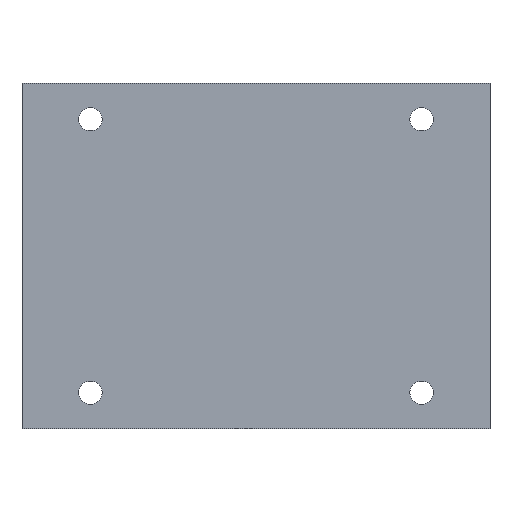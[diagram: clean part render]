
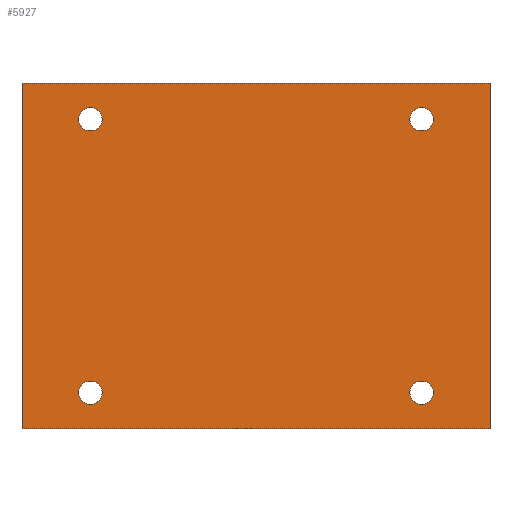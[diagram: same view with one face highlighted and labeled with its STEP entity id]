
A CAD part, front view. The second image highlights one B-rep face of the part: STEP entity #5927.
In plain terms, the highlighted planar face has unit normal (0, -1, 0).
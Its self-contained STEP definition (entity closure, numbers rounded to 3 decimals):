
#370=FACE_BOUND('',#941,.T.);
#371=FACE_BOUND('',#942,.T.);
#372=FACE_BOUND('',#943,.T.);
#373=FACE_BOUND('',#944,.T.);
#436=PLANE('',#6369);
#582=FACE_OUTER_BOUND('',#940,.T.);
#940=EDGE_LOOP('',(#4093,#4094,#4095,#4096));
#941=EDGE_LOOP('',(#4097));
#942=EDGE_LOOP('',(#4098));
#943=EDGE_LOOP('',(#4099));
#944=EDGE_LOOP('',(#4100));
#1352=LINE('',#8507,#1819);
#1356=LINE('',#8515,#1823);
#1359=LINE('',#8521,#1826);
#1362=LINE('',#8526,#1829);
#1819=VECTOR('',#7013,10.);
#1823=VECTOR('',#7019,10.);
#1826=VECTOR('',#7024,10.);
#1829=VECTOR('',#7029,10.);
#2247=CIRCLE('',#6354,10.3);
#2249=CIRCLE('',#6357,10.3);
#2251=CIRCLE('',#6360,10.3);
#2253=CIRCLE('',#6363,10.3);
#2443=VERTEX_POINT('',#8483);
#2445=VERTEX_POINT('',#8489);
#2447=VERTEX_POINT('',#8495);
#2449=VERTEX_POINT('',#8501);
#2450=VERTEX_POINT('',#8505);
#2451=VERTEX_POINT('',#8506);
#2454=VERTEX_POINT('',#8514);
#2456=VERTEX_POINT('',#8520);
#3068=EDGE_CURVE('',#2443,#2443,#2247,.T.);
#3071=EDGE_CURVE('',#2445,#2445,#2249,.T.);
#3074=EDGE_CURVE('',#2447,#2447,#2251,.T.);
#3077=EDGE_CURVE('',#2449,#2449,#2253,.T.);
#3078=EDGE_CURVE('',#2450,#2451,#1352,.T.);
#3082=EDGE_CURVE('',#2451,#2454,#1356,.T.);
#3085=EDGE_CURVE('',#2454,#2456,#1359,.T.);
#3088=EDGE_CURVE('',#2456,#2450,#1362,.T.);
#4093=ORIENTED_EDGE('',*,*,#3088,.T.);
#4094=ORIENTED_EDGE('',*,*,#3078,.T.);
#4095=ORIENTED_EDGE('',*,*,#3082,.T.);
#4096=ORIENTED_EDGE('',*,*,#3085,.T.);
#4097=ORIENTED_EDGE('',*,*,#3077,.F.);
#4098=ORIENTED_EDGE('',*,*,#3074,.F.);
#4099=ORIENTED_EDGE('',*,*,#3071,.F.);
#4100=ORIENTED_EDGE('',*,*,#3068,.F.);
#5927=ADVANCED_FACE('',(#582,#370,#371,#372,#373),#436,.F.);
#6354=AXIS2_PLACEMENT_3D('',#8485,#6988,#6989);
#6357=AXIS2_PLACEMENT_3D('',#8491,#6995,#6996);
#6360=AXIS2_PLACEMENT_3D('',#8497,#7002,#7003);
#6363=AXIS2_PLACEMENT_3D('',#8503,#7009,#7010);
#6369=AXIS2_PLACEMENT_3D('',#8529,#7033,#7034);
#6988=DIRECTION('center_axis',(0.,-1.,0.));
#6989=DIRECTION('ref_axis',(1.,0.,0.));
#6995=DIRECTION('center_axis',(0.,-1.,0.));
#6996=DIRECTION('ref_axis',(1.,0.,0.));
#7002=DIRECTION('center_axis',(0.,-1.,0.));
#7003=DIRECTION('ref_axis',(1.,0.,0.));
#7009=DIRECTION('center_axis',(0.,-1.,0.));
#7010=DIRECTION('ref_axis',(1.,0.,0.));
#7013=DIRECTION('',(0.,0.,1.));
#7019=DIRECTION('',(-1.,0.,0.));
#7024=DIRECTION('',(0.,0.,-1.));
#7029=DIRECTION('',(1.,0.,0.));
#7033=DIRECTION('center_axis',(0.,1.,0.));
#7034=DIRECTION('ref_axis',(1.,0.,0.));
#8483=CARTESIAN_POINT('',(135.7,0.,120.65));
#8485=CARTESIAN_POINT('Origin',(146.,0.,120.65));
#8489=CARTESIAN_POINT('',(-156.3,0.,120.65));
#8491=CARTESIAN_POINT('Origin',(-146.,0.,120.65));
#8495=CARTESIAN_POINT('',(135.7,0.,-120.65));
#8497=CARTESIAN_POINT('Origin',(146.,0.,-120.65));
#8501=CARTESIAN_POINT('',(-156.3,0.,-120.65));
#8503=CARTESIAN_POINT('Origin',(-146.,0.,-120.65));
#8505=CARTESIAN_POINT('',(206.4,0.,-152.4));
#8506=CARTESIAN_POINT('',(206.4,0.,152.4));
#8507=CARTESIAN_POINT('',(206.4,0.,-152.4));
#8514=CARTESIAN_POINT('',(-206.4,0.,152.4));
#8515=CARTESIAN_POINT('',(206.4,0.,152.4));
#8520=CARTESIAN_POINT('',(-206.4,0.,-152.4));
#8521=CARTESIAN_POINT('',(-206.4,0.,152.4));
#8526=CARTESIAN_POINT('',(-206.4,0.,-152.4));
#8529=CARTESIAN_POINT('Origin',(0.,0.,0.));
